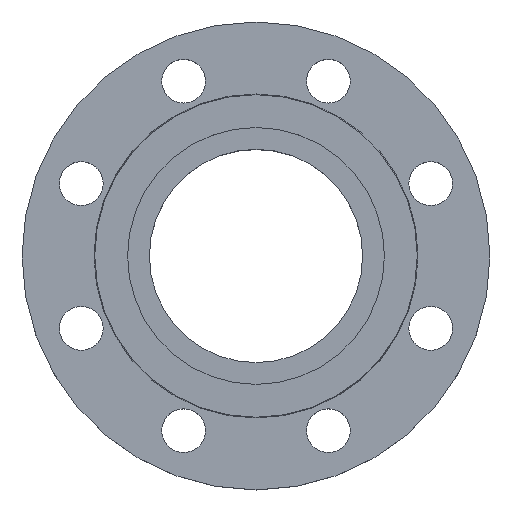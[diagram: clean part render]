
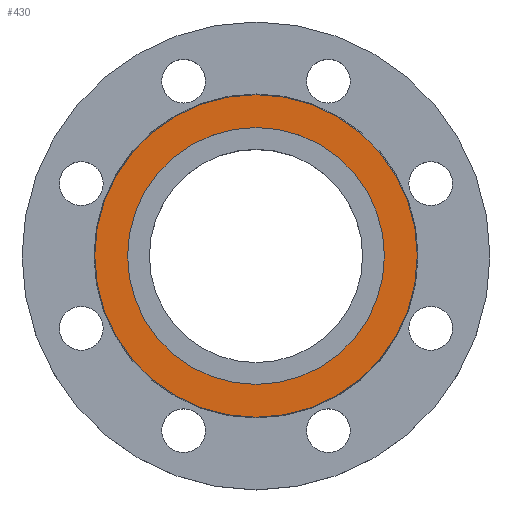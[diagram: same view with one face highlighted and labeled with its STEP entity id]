
A CAD part, top view. The second image highlights one B-rep face of the part: STEP entity #430.
In plain terms, the highlighted planar face has unit normal (0, 0, 1).
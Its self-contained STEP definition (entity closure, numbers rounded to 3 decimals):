
#50 = CARTESIAN_POINT ( 'NONE',  ( 64.5, 0., 0. ) ) ;
#59 = CARTESIAN_POINT ( 'NONE',  ( 81., 0., 0. ) ) ;
#81 = CIRCLE ( 'NONE', #85, 81. ) ;
#85 = AXIS2_PLACEMENT_3D ( 'NONE', #221, #220, #219 ) ;
#115 = AXIS2_PLACEMENT_3D ( 'NONE', #622, #617, #589 ) ;
#195 = VERTEX_POINT ( 'NONE', #900 ) ;
#219 = DIRECTION ( 'NONE',  ( -1., 0., 0. ) ) ;
#220 = DIRECTION ( 'NONE',  ( 0., 0., -1. ) ) ;
#221 = CARTESIAN_POINT ( 'NONE',  ( 0., 0., 0. ) ) ;
#239 = DIRECTION ( 'NONE',  ( -1., 0., 0. ) ) ;
#240 = DIRECTION ( 'NONE',  ( 0., 0., -1. ) ) ;
#241 = CARTESIAN_POINT ( 'NONE',  ( 0., 0., 0. ) ) ;
#311 = DIRECTION ( 'NONE',  ( -1., 0., 0. ) ) ;
#312 = DIRECTION ( 'NONE',  ( 0., 0., -1. ) ) ;
#313 = CARTESIAN_POINT ( 'NONE',  ( 0., 0., 0. ) ) ;
#350 = EDGE_CURVE ( 'NONE', #707, #1099, #648, .T. ) ;
#424 = CARTESIAN_POINT ( 'NONE',  ( -64.5, 0., 0. ) ) ;
#430 = ADVANCED_FACE ( 'NONE', ( #631, #626 ), #623, .T. ) ;
#508 = AXIS2_PLACEMENT_3D ( 'NONE', #313, #312, #311 ) ;
#535 = CIRCLE ( 'NONE', #508, 64.5 ) ;
#567 = AXIS2_PLACEMENT_3D ( 'NONE', #738, #715, #711 ) ;
#589 = DIRECTION ( 'NONE',  ( 1., 0., 0. ) ) ;
#617 = DIRECTION ( 'NONE',  ( 0., 0., 1. ) ) ;
#622 = CARTESIAN_POINT ( 'NONE',  ( 0., 0., 0. ) ) ;
#623 = PLANE ( 'NONE',  #115 ) ;
#626 = FACE_BOUND ( 'NONE', #1050, .T. ) ;
#631 = FACE_OUTER_BOUND ( 'NONE', #712, .T. ) ;
#648 = CIRCLE ( 'NONE', #567, 64.5 ) ;
#653 = ORIENTED_EDGE ( 'NONE', *, *, #982, .F. ) ;
#654 = ORIENTED_EDGE ( 'NONE', *, *, #975, .F. ) ;
#655 = ORIENTED_EDGE ( 'NONE', *, *, #350, .T. ) ;
#657 = ORIENTED_EDGE ( 'NONE', *, *, #911, .T. ) ;
#707 = VERTEX_POINT ( 'NONE', #424 ) ;
#711 = DIRECTION ( 'NONE',  ( -1., 0., 0. ) ) ;
#712 = EDGE_LOOP ( 'NONE', ( #653, #654 ) ) ;
#715 = DIRECTION ( 'NONE',  ( 0., 0., -1. ) ) ;
#736 = AXIS2_PLACEMENT_3D ( 'NONE', #241, #240, #239 ) ;
#738 = CARTESIAN_POINT ( 'NONE',  ( 0., 0., 0. ) ) ;
#757 = CIRCLE ( 'NONE', #736, 81. ) ;
#900 = CARTESIAN_POINT ( 'NONE',  ( -81., 0., 0. ) ) ;
#911 = EDGE_CURVE ( 'NONE', #1099, #707, #535, .T. ) ;
#975 = EDGE_CURVE ( 'NONE', #1082, #195, #757, .T. ) ;
#982 = EDGE_CURVE ( 'NONE', #195, #1082, #81, .T. ) ;
#1050 = EDGE_LOOP ( 'NONE', ( #655, #657 ) ) ;
#1082 = VERTEX_POINT ( 'NONE', #59 ) ;
#1099 = VERTEX_POINT ( 'NONE', #50 ) ;
